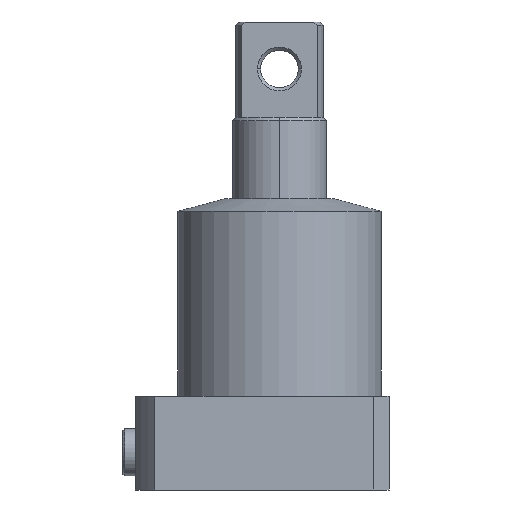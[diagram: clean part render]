
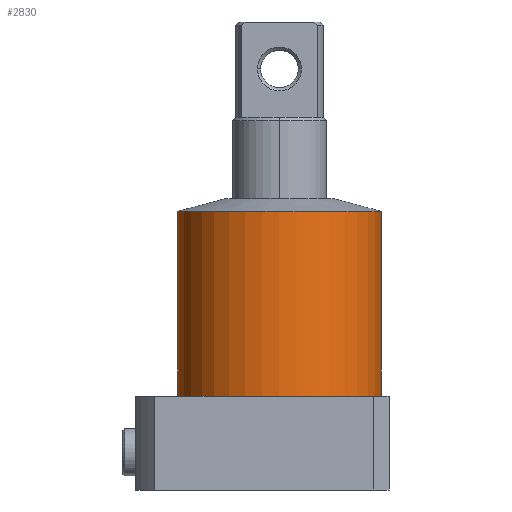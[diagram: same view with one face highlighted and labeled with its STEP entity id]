
A CAD part, front view. The second image highlights one B-rep face of the part: STEP entity #2830.
In plain terms, the highlighted cylindrical face has radius 32.5 mm (diameter 65 mm), a partial arc.
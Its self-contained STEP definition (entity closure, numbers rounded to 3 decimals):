
#291 = AXIS2_PLACEMENT_3D ( 'NONE', #6268, #6393, #6574 ) ;
#422 = DIRECTION ( 'NONE',  ( -1., 0., 0. ) ) ;
#464 = CARTESIAN_POINT ( 'NONE',  ( 0., 0., 30. ) ) ;
#1007 = EDGE_CURVE ( 'NONE', #4825, #8105, #9665, .T. ) ;
#1360 = VECTOR ( 'NONE', #10973, 1000. ) ;
#1742 = CARTESIAN_POINT ( 'NONE',  ( 32.5, 0., 30. ) ) ;
#1770 = DIRECTION ( 'NONE',  ( 0., 0., -1. ) ) ;
#1780 = EDGE_CURVE ( 'NONE', #10780, #2810, #12669, .T. ) ;
#2249 = CARTESIAN_POINT ( 'NONE',  ( 0., 0., 93. ) ) ;
#2810 = VERTEX_POINT ( 'NONE', #4730 ) ;
#2830 = ADVANCED_FACE ( 'NONE', ( #12652 ), #8845, .T. ) ;
#3084 = ORIENTED_EDGE ( 'NONE', *, *, #13365, .F. ) ;
#3513 = DIRECTION ( 'NONE',  ( -1., 0., 0. ) ) ;
#4730 = CARTESIAN_POINT ( 'NONE',  ( -32.5, 0., 30. ) ) ;
#4825 = VERTEX_POINT ( 'NONE', #8719 ) ;
#5715 = ORIENTED_EDGE ( 'NONE', *, *, #1007, .F. ) ;
#6153 = EDGE_LOOP ( 'NONE', ( #3084, #5715, #7766, #12949 ) ) ;
#6268 = CARTESIAN_POINT ( 'NONE',  ( 0., 0., 88.981 ) ) ;
#6393 = DIRECTION ( 'NONE',  ( 0., 0., 1. ) ) ;
#6574 = DIRECTION ( 'NONE',  ( -1., 0., 0. ) ) ;
#6579 = LINE ( 'NONE', #13539, #9992 ) ;
#7583 = EDGE_CURVE ( 'NONE', #4825, #2810, #6579, .T. ) ;
#7766 = ORIENTED_EDGE ( 'NONE', *, *, #7583, .T. ) ;
#8105 = VERTEX_POINT ( 'NONE', #15838 ) ;
#8719 = CARTESIAN_POINT ( 'NONE',  ( -32.5, 0., 88.981 ) ) ;
#8768 = AXIS2_PLACEMENT_3D ( 'NONE', #464, #1770, #422 ) ;
#8845 = CYLINDRICAL_SURFACE ( 'NONE', #9858, 32.5 ) ;
#9665 = CIRCLE ( 'NONE', #291, 32.5 ) ;
#9699 = CARTESIAN_POINT ( 'NONE',  ( 32.5, 0., 93. ) ) ;
#9858 = AXIS2_PLACEMENT_3D ( 'NONE', #2249, #11203, #3513 ) ;
#9992 = VECTOR ( 'NONE', #15858, 1000. ) ;
#10780 = VERTEX_POINT ( 'NONE', #1742 ) ;
#10973 = DIRECTION ( 'NONE',  ( 0., 0., -1. ) ) ;
#11203 = DIRECTION ( 'NONE',  ( 0., 0., -1. ) ) ;
#11584 = LINE ( 'NONE', #9699, #1360 ) ;
#12652 = FACE_OUTER_BOUND ( 'NONE', #6153, .T. ) ;
#12669 = CIRCLE ( 'NONE', #8768, 32.5 ) ;
#12949 = ORIENTED_EDGE ( 'NONE', *, *, #1780, .F. ) ;
#13365 = EDGE_CURVE ( 'NONE', #8105, #10780, #11584, .T. ) ;
#13539 = CARTESIAN_POINT ( 'NONE',  ( -32.5, 0., 93. ) ) ;
#15838 = CARTESIAN_POINT ( 'NONE',  ( 32.5, 0., 88.981 ) ) ;
#15858 = DIRECTION ( 'NONE',  ( 0., 0., -1. ) ) ;
